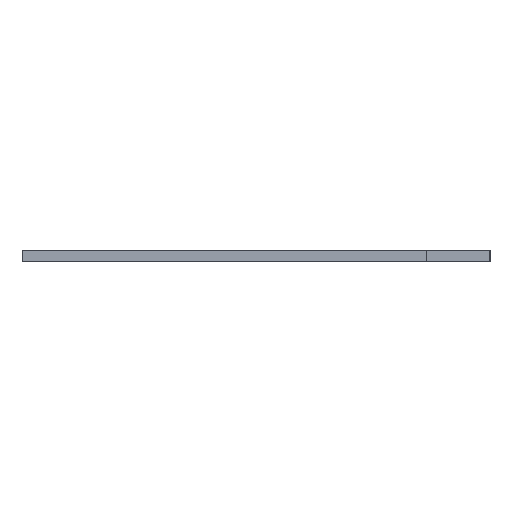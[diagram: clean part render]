
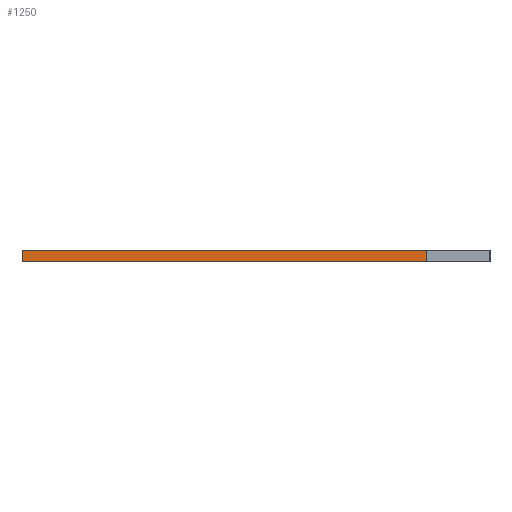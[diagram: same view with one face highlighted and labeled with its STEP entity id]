
A CAD part, left-side view. The second image highlights one B-rep face of the part: STEP entity #1250.
In plain terms, the highlighted planar face has unit normal (-1, 0, 0).
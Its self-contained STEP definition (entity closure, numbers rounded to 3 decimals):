
#44 = PLANE('',#45);
#45 = AXIS2_PLACEMENT_3D('',#46,#47,#48);
#46 = CARTESIAN_POINT('',(0.,0.,0.));
#47 = DIRECTION('',(0.,0.,1.));
#48 = DIRECTION('',(1.,0.,-0.));
#98 = PLANE('',#99);
#99 = AXIS2_PLACEMENT_3D('',#100,#101,#102);
#100 = CARTESIAN_POINT('',(0.,0.,30.));
#101 = DIRECTION('',(0.,0.,1.));
#102 = DIRECTION('',(1.,0.,-0.));
#124 = PLANE('',#125);
#125 = AXIS2_PLACEMENT_3D('',#126,#127,#128);
#126 = CARTESIAN_POINT('',(850.,595.,0.));
#127 = DIRECTION('',(0.,-1.,0.));
#128 = DIRECTION('',(-1.,0.,0.));
#500 = VERTEX_POINT('',#501);
#501 = CARTESIAN_POINT('',(-850.,595.,0.));
#522 = EDGE_CURVE('',#500,#523,#525,.T.);
#523 = VERTEX_POINT('',#524);
#524 = CARTESIAN_POINT('',(-850.,-425.,0.));
#525 = SURFACE_CURVE('',#526,(#530,#537),.PCURVE_S1.);
#526 = LINE('',#527,#528);
#527 = CARTESIAN_POINT('',(-850.,595.,0.));
#528 = VECTOR('',#529,1.);
#529 = DIRECTION('',(0.,-1.,0.));
#530 = PCURVE('',#44,#531);
#531 = DEFINITIONAL_REPRESENTATION('',(#532),#536);
#532 = LINE('',#533,#534);
#533 = CARTESIAN_POINT('',(-850.,595.));
#534 = VECTOR('',#535,1.);
#535 = DIRECTION('',(0.,-1.));
#536 = ( GEOMETRIC_REPRESENTATION_CONTEXT(2) 
PARAMETRIC_REPRESENTATION_CONTEXT() REPRESENTATION_CONTEXT('2D SPACE',''
  ) );
#537 = PCURVE('',#538,#543);
#538 = PLANE('',#539);
#539 = AXIS2_PLACEMENT_3D('',#540,#541,#542);
#540 = CARTESIAN_POINT('',(-850.,595.,0.));
#541 = DIRECTION('',(1.,0.,-0.));
#542 = DIRECTION('',(0.,-1.,0.));
#543 = DEFINITIONAL_REPRESENTATION('',(#544),#548);
#544 = LINE('',#545,#546);
#545 = CARTESIAN_POINT('',(0.,0.));
#546 = VECTOR('',#547,1.);
#547 = DIRECTION('',(1.,0.));
#548 = ( GEOMETRIC_REPRESENTATION_CONTEXT(2) 
PARAMETRIC_REPRESENTATION_CONTEXT() REPRESENTATION_CONTEXT('2D SPACE',''
  ) );
#563 = PLANE('',#564);
#564 = AXIS2_PLACEMENT_3D('',#565,#566,#567);
#565 = CARTESIAN_POINT('',(-930.,-425.,-1.));
#566 = DIRECTION('',(0.,1.,0.));
#567 = DIRECTION('',(0.,0.,1.));
#685 = VERTEX_POINT('',#686);
#686 = CARTESIAN_POINT('',(-850.,595.,30.));
#707 = EDGE_CURVE('',#500,#685,#708,.T.);
#708 = SURFACE_CURVE('',#709,(#713,#720),.PCURVE_S1.);
#709 = LINE('',#710,#711);
#710 = CARTESIAN_POINT('',(-850.,595.,0.));
#711 = VECTOR('',#712,1.);
#712 = DIRECTION('',(0.,0.,1.));
#713 = PCURVE('',#124,#714);
#714 = DEFINITIONAL_REPRESENTATION('',(#715),#719);
#715 = LINE('',#716,#717);
#716 = CARTESIAN_POINT('',(1700.,0.));
#717 = VECTOR('',#718,1.);
#718 = DIRECTION('',(0.,-1.));
#719 = ( GEOMETRIC_REPRESENTATION_CONTEXT(2) 
PARAMETRIC_REPRESENTATION_CONTEXT() REPRESENTATION_CONTEXT('2D SPACE',''
  ) );
#720 = PCURVE('',#538,#721);
#721 = DEFINITIONAL_REPRESENTATION('',(#722),#726);
#722 = LINE('',#723,#724);
#723 = CARTESIAN_POINT('',(0.,0.));
#724 = VECTOR('',#725,1.);
#725 = DIRECTION('',(0.,-1.));
#726 = ( GEOMETRIC_REPRESENTATION_CONTEXT(2) 
PARAMETRIC_REPRESENTATION_CONTEXT() REPRESENTATION_CONTEXT('2D SPACE',''
  ) );
#1028 = EDGE_CURVE('',#685,#1029,#1031,.T.);
#1029 = VERTEX_POINT('',#1030);
#1030 = CARTESIAN_POINT('',(-850.,-425.,30.));
#1031 = SURFACE_CURVE('',#1032,(#1036,#1043),.PCURVE_S1.);
#1032 = LINE('',#1033,#1034);
#1033 = CARTESIAN_POINT('',(-850.,595.,30.));
#1034 = VECTOR('',#1035,1.);
#1035 = DIRECTION('',(0.,-1.,0.));
#1036 = PCURVE('',#98,#1037);
#1037 = DEFINITIONAL_REPRESENTATION('',(#1038),#1042);
#1038 = LINE('',#1039,#1040);
#1039 = CARTESIAN_POINT('',(-850.,595.));
#1040 = VECTOR('',#1041,1.);
#1041 = DIRECTION('',(0.,-1.));
#1042 = ( GEOMETRIC_REPRESENTATION_CONTEXT(2) 
PARAMETRIC_REPRESENTATION_CONTEXT() REPRESENTATION_CONTEXT('2D SPACE',''
  ) );
#1043 = PCURVE('',#538,#1044);
#1044 = DEFINITIONAL_REPRESENTATION('',(#1045),#1049);
#1045 = LINE('',#1046,#1047);
#1046 = CARTESIAN_POINT('',(0.,-30.));
#1047 = VECTOR('',#1048,1.);
#1048 = DIRECTION('',(1.,0.));
#1049 = ( GEOMETRIC_REPRESENTATION_CONTEXT(2) 
PARAMETRIC_REPRESENTATION_CONTEXT() REPRESENTATION_CONTEXT('2D SPACE',''
  ) );
#1231 = EDGE_CURVE('',#523,#1029,#1232,.T.);
#1232 = SURFACE_CURVE('',#1233,(#1237,#1243),.PCURVE_S1.);
#1233 = LINE('',#1234,#1235);
#1234 = CARTESIAN_POINT('',(-850.,-425.,-0.5));
#1235 = VECTOR('',#1236,1.);
#1236 = DIRECTION('',(0.,-0.,1.));
#1237 = PCURVE('',#563,#1238);
#1238 = DEFINITIONAL_REPRESENTATION('',(#1239),#1242);
#1239 = B_SPLINE_CURVE_WITH_KNOTS('',1,(#1240,#1241),.UNSPECIFIED.,.F.,
  .F.,(2,2),(0.5,30.5),.PIECEWISE_BEZIER_KNOTS.);
#1240 = CARTESIAN_POINT('',(1.,80.));
#1241 = CARTESIAN_POINT('',(31.,80.));
#1242 = ( GEOMETRIC_REPRESENTATION_CONTEXT(2) 
PARAMETRIC_REPRESENTATION_CONTEXT() REPRESENTATION_CONTEXT('2D SPACE',''
  ) );
#1243 = PCURVE('',#538,#1244);
#1244 = DEFINITIONAL_REPRESENTATION('',(#1245),#1248);
#1245 = B_SPLINE_CURVE_WITH_KNOTS('',1,(#1246,#1247),.UNSPECIFIED.,.F.,
  .F.,(2,2),(0.5,30.5),.PIECEWISE_BEZIER_KNOTS.);
#1246 = CARTESIAN_POINT('',(1020.,0.));
#1247 = CARTESIAN_POINT('',(1020.,-30.));
#1248 = ( GEOMETRIC_REPRESENTATION_CONTEXT(2) 
PARAMETRIC_REPRESENTATION_CONTEXT() REPRESENTATION_CONTEXT('2D SPACE',''
  ) );
#1250 = ADVANCED_FACE('',(#1251),#538,.F.);
#1251 = FACE_BOUND('',#1252,.F.);
#1252 = EDGE_LOOP('',(#1253,#1254,#1255,#1256));
#1253 = ORIENTED_EDGE('',*,*,#522,.F.);
#1254 = ORIENTED_EDGE('',*,*,#707,.T.);
#1255 = ORIENTED_EDGE('',*,*,#1028,.T.);
#1256 = ORIENTED_EDGE('',*,*,#1231,.F.);
